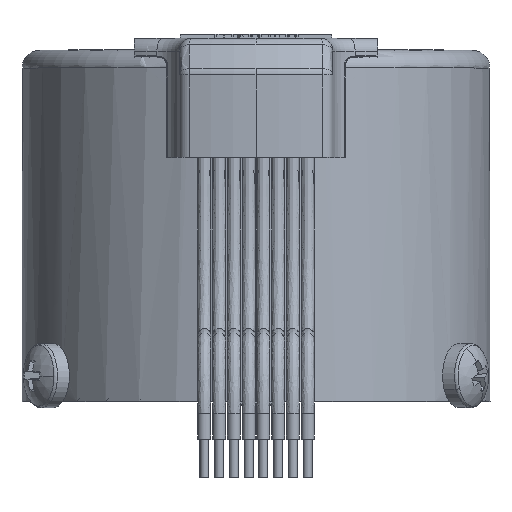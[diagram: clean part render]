
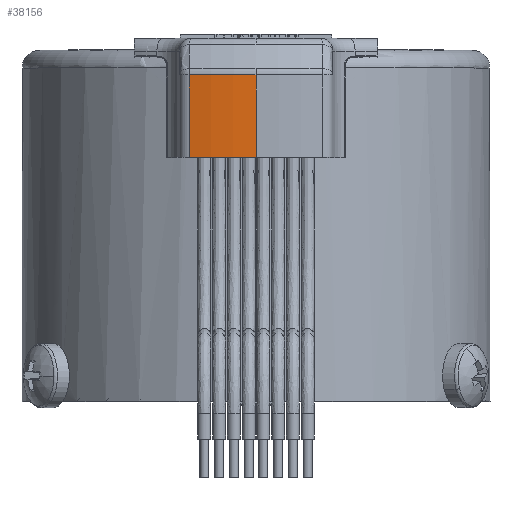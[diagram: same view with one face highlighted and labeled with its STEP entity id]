
A CAD part, top view. The second image highlights one B-rep face of the part: STEP entity #38156.
In plain terms, the highlighted cylindrical face has radius 23.2 mm (diameter 46.4 mm), a partial arc.
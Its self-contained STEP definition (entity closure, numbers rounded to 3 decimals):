
#1509 = EDGE_CURVE ( 'NONE', #55043, #17123, #28177, .T. ) ;
#1928 = CARTESIAN_POINT ( 'NONE',  ( 0., 28.003, -1.3 ) ) ;
#2447 = DIRECTION ( 'NONE',  ( 0., 1., 0. ) ) ;
#2617 = CARTESIAN_POINT ( 'NONE',  ( 0., 34.437, -1.3 ) ) ;
#2662 = VECTOR ( 'NONE', #38111, 1000. ) ;
#3054 = CARTESIAN_POINT ( 'NONE',  ( 0., 34.437, 21.9 ) ) ;
#5071 = CIRCLE ( 'NONE', #34740, 23.2 ) ;
#6829 = EDGE_CURVE ( 'NONE', #9446, #30757, #63270, .T. ) ;
#8387 = ORIENTED_EDGE ( 'NONE', *, *, #47521, .F. ) ;
#9446 = VERTEX_POINT ( 'NONE', #21484 ) ;
#12577 = VECTOR ( 'NONE', #34160, 1000. ) ;
#14415 = EDGE_CURVE ( 'NONE', #17123, #9446, #63219, .T. ) ;
#14667 = CARTESIAN_POINT ( 'NONE',  ( -5.225, 23.079, 21.304 ) ) ;
#17123 = VERTEX_POINT ( 'NONE', #3054 ) ;
#21484 = CARTESIAN_POINT ( 'NONE',  ( -5.225, 34.437, 21.304 ) ) ;
#22472 = DIRECTION ( 'NONE',  ( 0., -1., 0. ) ) ;
#25281 = CARTESIAN_POINT ( 'NONE',  ( -5.225, 28.003, 21.304 ) ) ;
#28177 = LINE ( 'NONE', #52267, #2662 ) ;
#30757 = VERTEX_POINT ( 'NONE', #25281 ) ;
#31363 = CARTESIAN_POINT ( 'NONE',  ( 0., 28.003, 21.9 ) ) ;
#34160 = DIRECTION ( 'NONE',  ( 0., -1., 0. ) ) ;
#34740 = AXIS2_PLACEMENT_3D ( 'NONE', #1928, #59604, #59925 ) ;
#35636 = AXIS2_PLACEMENT_3D ( 'NONE', #2617, #22472, #51378 ) ;
#35765 = DIRECTION ( 'NONE',  ( 0., 0., 1. ) ) ;
#36732 = CYLINDRICAL_SURFACE ( 'NONE', #59704, 23.2 ) ;
#38111 = DIRECTION ( 'NONE',  ( 0., 1., 0. ) ) ;
#38156 = ADVANCED_FACE ( 'NONE', ( #40620 ), #36732, .T. ) ;
#40620 = FACE_OUTER_BOUND ( 'NONE', #54325, .T. ) ;
#41246 = CARTESIAN_POINT ( 'NONE',  ( 0., 23.079, -1.3 ) ) ;
#47521 = EDGE_CURVE ( 'NONE', #55043, #30757, #5071, .T. ) ;
#51378 = DIRECTION ( 'NONE',  ( 0., 0., 1. ) ) ;
#52267 = CARTESIAN_POINT ( 'NONE',  ( 0., 23.079, 21.9 ) ) ;
#52272 = ORIENTED_EDGE ( 'NONE', *, *, #14415, .T. ) ;
#53897 = ORIENTED_EDGE ( 'NONE', *, *, #6829, .T. ) ;
#54325 = EDGE_LOOP ( 'NONE', ( #8387, #59260, #52272, #53897 ) ) ;
#55043 = VERTEX_POINT ( 'NONE', #31363 ) ;
#59260 = ORIENTED_EDGE ( 'NONE', *, *, #1509, .T. ) ;
#59604 = DIRECTION ( 'NONE',  ( 0., -1., 0. ) ) ;
#59704 = AXIS2_PLACEMENT_3D ( 'NONE', #41246, #2447, #35765 ) ;
#59925 = DIRECTION ( 'NONE',  ( 0., 0., -1. ) ) ;
#63219 = CIRCLE ( 'NONE', #35636, 23.2 ) ;
#63270 = LINE ( 'NONE', #14667, #12577 ) ;
